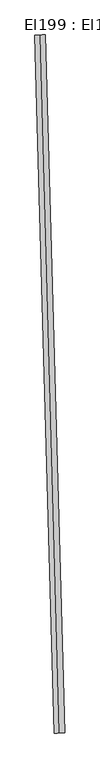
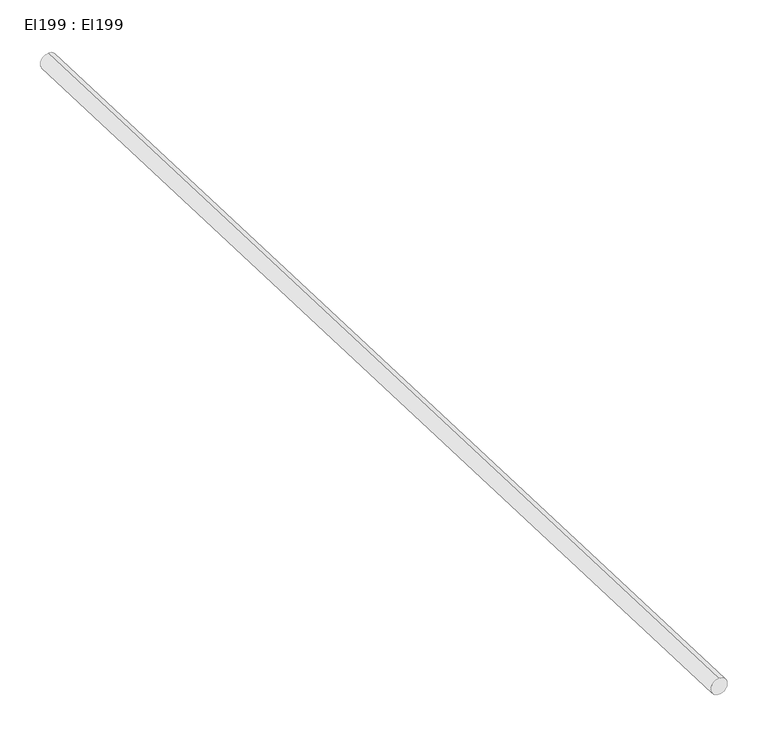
"""IFC4 building model written with IfcOpenShell, lengths in millimetres: cable carrier segment geometry, El199 : El199."""

from ifc_helpers import new_model, si_unit, point, frame, frame_2d, origin, place, context, project, spatial, circle_curve, trimmed, segment, composite_curve, outline, extrude, source, transform, mapped, element, save


def el199_el199_cba81cca(model_context):
    return source(origin(), model_context, "Body", "SweptSolid", [
        extrude(outline(composite_curve([segment(trimmed(circle_curve(frame_2d((0.0, -12.0)), 12.0), [point((0.0, -24.0))], [point((0.0, 0.0))], False, "CARTESIAN"), True, "CONTINUOUS"), segment(trimmed(circle_curve(frame_2d((0.0, -12.0)), 12.0), [point((0.0, 0.0))], [point((0.0, -24.0))], False, "CARTESIAN"), True, "CONTINUOUS")], self_intersect=False)), frame((9619.3327242, 30546.3453116, 2962.0), z_axis=(-0.027470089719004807, 0.9996226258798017, 0.0), x_axis=(-0.9996226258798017, -0.027470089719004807, 0.0)), (0.0, 0.0, 1.0), 1588.11),
    ])


if __name__ == "__main__":
    model = new_model("IFC4")
    model_context = context("Model", 3, world=origin())
    ifc_project = project(units=[si_unit("LENGTHUNIT", "METRE", prefix="MILLI")], contexts=[model_context])
    site = spatial("IfcSite", under=ifc_project)
    building = spatial("IfcBuilding", under=site)
    placement = place(None, origin())
    el199_el199_shape = el199_el199_cba81cca(model_context)
    element("IfcCableCarrierSegment", 1, ObjectType="El199 : El199", at=placement, inside=building, context=model_context, shape_type="MappedRepresentation", body=[
        mapped(el199_el199_shape, transform((0.0, 0.0, 0.0), x_axis=(1.0, 0.0, 0.0), y_axis=(0.0, 1.0, 0.0), z_axis=(0.0, 0.0, 1.0))),
    ])
    save(model, "model.ifc")
